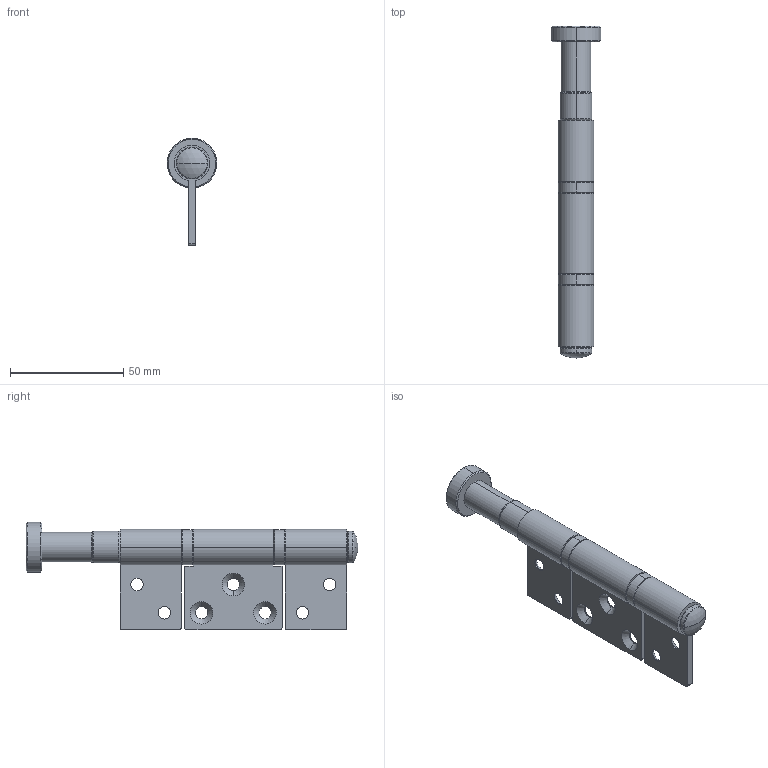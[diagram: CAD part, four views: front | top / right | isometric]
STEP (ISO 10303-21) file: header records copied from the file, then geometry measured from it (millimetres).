
FILE_DESCRIPTION (( 'STEP AP214' ), '1' );
FILE_NAME ('F3 Straight Intermediate Guide - Closed.STEP', '2024-07-09T03:13:55', ( '' ), ( '' ), 'SwSTEP 2.0', 'SolidWorks 2023', '' );
FILE_SCHEMA (( 'AUTOMOTIVE_DESIGN' ));
Length unit declared in the file: millimetre
Products named in the file (5): Straight flap top; F3 Straight Intermediate Guide - Closed; Straight intermediate guide body; Straight flap middle; Straight flap bottom
Assembly tree (4 placements, depth 2):
  F3 Straight Intermediate Guide - Closed
    Straight intermediate guide body
    Straight flap middle
    Straight flap top
    Straight flap bottom
Bounding box: 22 x 146.5 x 47.5 mm (x, y, z)
Volume: 34458.1 mm3; surface area: 20447.7 mm2
Topology: 4 solids, 4 shells, 122 faces, 280 edges, 173 vertices
Faces by surface type: cylinder 53, cone 28, plane 27, torus 12, sphere 2
Entity records: 3670 total; most frequent: DIRECTION 698, CARTESIAN_POINT 582, ORIENTED_EDGE 560, AXIS2_PLACEMENT_3D 289, EDGE_CURVE 280, VERTEX_POINT 173, CIRCLE 160, EDGE_LOOP 149
